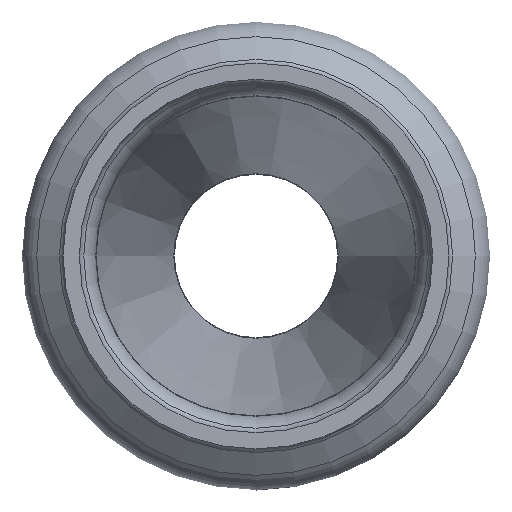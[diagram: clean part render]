
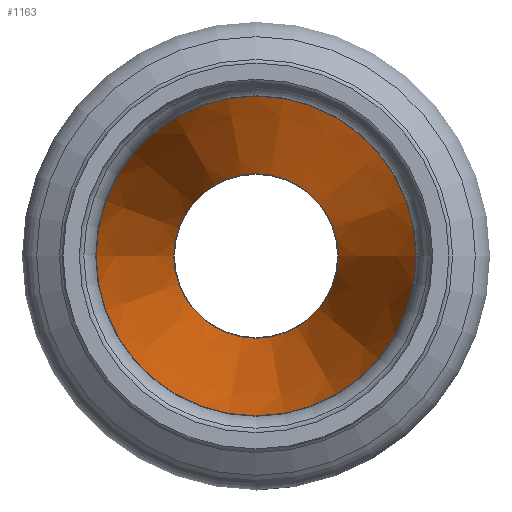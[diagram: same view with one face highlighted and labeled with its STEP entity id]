
A CAD part, left-side view. The second image highlights one B-rep face of the part: STEP entity #1163.
In plain terms, the highlighted conical face has half-angle 11.104 degrees and reference radius 20.663 mm.
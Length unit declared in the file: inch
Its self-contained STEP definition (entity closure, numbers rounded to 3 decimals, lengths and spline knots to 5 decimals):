
#76=LINE('',#2154,#98);
#98=VECTOR('',#1741,0.8135);
#112=CONICAL_SURFACE('',#1349,0.8135,0.194);
#149=FACE_OUTER_BOUND('',#198,.T.);
#198=EDGE_LOOP('',(#951,#952,#953,#954,#955,#956,#957,#958));
#327=CIRCLE('',#1345,0.55258);
#328=CIRCLE('',#1346,0.55258);
#329=CIRCLE('',#1347,0.55258);
#331=CIRCLE('',#1350,1.07442);
#332=CIRCLE('',#1351,1.07442);
#333=CIRCLE('',#1352,1.07442);
#470=VERTEX_POINT('',#2145);
#471=VERTEX_POINT('',#2146);
#472=VERTEX_POINT('',#2148);
#473=VERTEX_POINT('',#2153);
#474=VERTEX_POINT('',#2155);
#475=VERTEX_POINT('',#2157);
#638=EDGE_CURVE('',#470,#471,#327,.T.);
#639=EDGE_CURVE('',#472,#470,#328,.T.);
#640=EDGE_CURVE('',#471,#472,#329,.T.);
#642=EDGE_CURVE('',#472,#473,#76,.T.);
#643=EDGE_CURVE('',#474,#473,#331,.T.);
#644=EDGE_CURVE('',#475,#474,#332,.T.);
#645=EDGE_CURVE('',#473,#475,#333,.T.);
#951=ORIENTED_EDGE('',*,*,#638,.T.);
#952=ORIENTED_EDGE('',*,*,#640,.T.);
#953=ORIENTED_EDGE('',*,*,#642,.T.);
#954=ORIENTED_EDGE('',*,*,#643,.F.);
#955=ORIENTED_EDGE('',*,*,#644,.F.);
#956=ORIENTED_EDGE('',*,*,#645,.F.);
#957=ORIENTED_EDGE('',*,*,#642,.F.);
#958=ORIENTED_EDGE('',*,*,#639,.T.);
#1163=ADVANCED_FACE('',(#149),#112,.F.);
#1345=AXIS2_PLACEMENT_3D('',#2147,#1731,#1732);
#1346=AXIS2_PLACEMENT_3D('',#2149,#1733,#1734);
#1347=AXIS2_PLACEMENT_3D('',#2150,#1735,#1736);
#1349=AXIS2_PLACEMENT_3D('',#2152,#1739,#1740);
#1350=AXIS2_PLACEMENT_3D('',#2156,#1742,#1743);
#1351=AXIS2_PLACEMENT_3D('',#2158,#1744,#1745);
#1352=AXIS2_PLACEMENT_3D('',#2159,#1746,#1747);
#1731=DIRECTION('center_axis',(1.,0.,0.));
#1732=DIRECTION('ref_axis',(0.,1.,0.));
#1733=DIRECTION('center_axis',(1.,0.,0.));
#1734=DIRECTION('ref_axis',(0.,1.,0.));
#1735=DIRECTION('center_axis',(1.,0.,0.));
#1736=DIRECTION('ref_axis',(0.,1.,0.));
#1739=DIRECTION('center_axis',(-1.,0.,0.));
#1740=DIRECTION('ref_axis',(0.,1.,0.));
#1741=DIRECTION('',(-0.981,-0.193,0.));
#1742=DIRECTION('center_axis',(1.,0.,0.));
#1743=DIRECTION('ref_axis',(0.,1.,0.));
#1744=DIRECTION('center_axis',(1.,0.,0.));
#1745=DIRECTION('ref_axis',(0.,1.,0.));
#1746=DIRECTION('center_axis',(1.,0.,0.));
#1747=DIRECTION('ref_axis',(0.,1.,0.));
#2145=CARTESIAN_POINT('',(1.32937,0.55258,0.));
#2146=CARTESIAN_POINT('',(1.32937,0.,0.55258));
#2147=CARTESIAN_POINT('Origin',(1.32937,0.,
0.));
#2148=CARTESIAN_POINT('',(1.32937,-0.55258,0.));
#2149=CARTESIAN_POINT('Origin',(1.32937,0.,
0.));
#2150=CARTESIAN_POINT('Origin',(1.32937,0.,
0.));
#2152=CARTESIAN_POINT('Origin',(0.,0.,0.));
#2153=CARTESIAN_POINT('',(-1.32937,-1.07442,0.));
#2154=CARTESIAN_POINT('',(0.,-0.8135,0.));
#2155=CARTESIAN_POINT('',(-1.32937,0.,1.07442));
#2156=CARTESIAN_POINT('Origin',(-1.32937,0.,
0.));
#2157=CARTESIAN_POINT('',(-1.32937,1.07442,0.));
#2158=CARTESIAN_POINT('Origin',(-1.32937,0.,
0.));
#2159=CARTESIAN_POINT('Origin',(-1.32937,0.,
0.));
